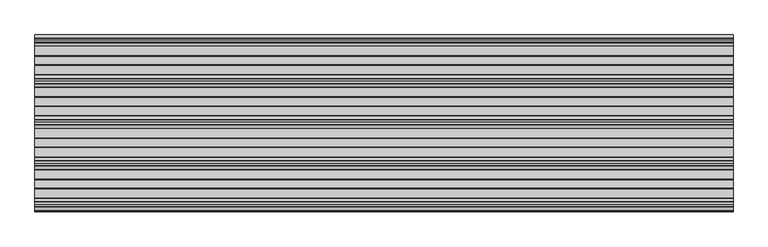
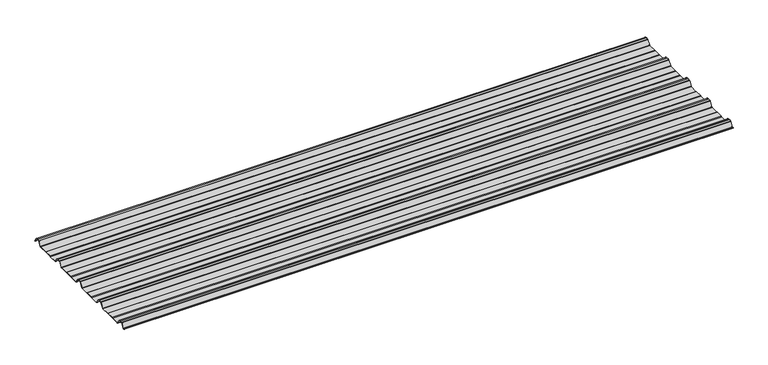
"""IFC4 building model written with IfcOpenShell, lengths in millimetres: beam geometry, 3D_Metalcraft T-Rib : 3D_Metalcraft T-Rib."""

from ifc_helpers import new_model, si_unit, point, frame, frame_2d, origin, place, context, project, spatial, polyline, circle_curve, trimmed, segment, composite_curve, outline, extrude, source, transform, mapped, element, save


def beam_7249f60c(model_context):
    return source(origin(), model_context, "Body", "SweptSolid", [
        extrude(outline(composite_curve([segment(polyline([(-72.2377386, -25.7896475), (-76.3538889, -24.06703), (-113.6461111, -24.06703), (-117.7622614, -25.7896475), (-160.0, -25.7896475)]), True, "CONTINUOUS"), segment(trimmed(circle_curve(frame_2d((-159.2196788, -21.4509358)), 4.4083239), [point((-160.0, -25.7896475))], [point((-162.8209858, -23.9933574))], False, "CARTESIAN"), True, "CONTINUOUS"), segment(polyline([(-162.8209858, -23.9933574), (-178.3273257, -0.5940367)]), True, "CONTINUOUS"), segment(trimmed(circle_curve(frame_2d((-180.8929255, -2.3855242)), 3.1291741), [point((-178.3273257, -0.5940367))], [point((-179.9028031, 0.582874))], True, "CARTESIAN"), True, "CONTINUOUS"), segment(trimmed(circle_curve(frame_2d((-189.9940851, -29.8891871)), 32.0995402), [point((-179.9028031, 0.582874))], [point((-190.0, 2.2103525))], True, "CARTESIAN"), True, "CONTINUOUS"), segment(trimmed(circle_curve(frame_2d((-190.0059149, -29.8891871)), 32.0995402), [point((-190.0, 2.2103525))], [point((-200.0971969, 0.582874))], True, "CARTESIAN"), True, "CONTINUOUS"), segment(trimmed(circle_curve(frame_2d((-199.1070745, -2.3855242)), 3.1291741), [point((-200.0971969, 0.582874))], [point((-201.6726743, -0.5940367))], True, "CARTESIAN"), True, "CONTINUOUS"), segment(polyline([(-201.6726743, -0.5940367), (-217.1790142, -23.9933574)]), True, "CONTINUOUS"), segment(trimmed(circle_curve(frame_2d((-220.7803212, -21.4509358)), 4.4083239), [point((-217.1790142, -23.9933574))], [point((-220.0, -25.7896475))], False, "CARTESIAN"), True, "CONTINUOUS"), segment(polyline([(-220.0, -25.7896475), (-262.2377386, -25.7896475), (-266.3538889, -24.06703), (-303.6461111, -24.06703), (-307.7622614, -25.7896475), (-350.0, -25.7896475)]), True, "CONTINUOUS"), segment(trimmed(circle_curve(frame_2d((-349.2196788, -21.4509358)), 4.4083239), [point((-350.0, -25.7896475))], [point((-352.8209858, -23.9933574))], False, "CARTESIAN"), True, "CONTINUOUS"), segment(polyline([(-352.8209858, -23.9933574), (-368.3273257, -0.5940367)]), True, "CONTINUOUS"), segment(trimmed(circle_curve(frame_2d((-370.8929255, -2.3855242)), 3.1291741), [point((-368.3273257, -0.5940367))], [point((-369.9028031, 0.582874))], True, "CARTESIAN"), True, "CONTINUOUS"), segment(trimmed(circle_curve(frame_2d((-379.9940851, -29.8891871)), 32.0995402), [point((-369.9028031, 0.582874))], [point((-380.0, 2.2103525))], True, "CARTESIAN"), True, "CONTINUOUS"), segment(trimmed(circle_curve(frame_2d((-380.0059149, -29.8891871)), 32.0995402), [point((-380.0, 2.2103525))], [point((-390.0971969, 0.582874))], True, "CARTESIAN"), True, "CONTINUOUS"), segment(trimmed(circle_curve(frame_2d((-389.1070745, -2.3855242)), 3.1291741), [point((-390.0971969, 0.582874))], [point((-391.6726743, -0.5940367))], True, "CARTESIAN"), True, "CONTINUOUS"), segment(polyline([(-391.6726743, -0.5940367), (-407.1790142, -23.9933574)]), True, "CONTINUOUS"), segment(trimmed(circle_curve(frame_2d((-410.7803212, -21.4509358)), 4.4083239), [point((-407.1790142, -23.9933574))], [point((-410.0, -25.7896475))], False, "CARTESIAN"), True, "CONTINUOUS"), segment(polyline([(-410.0, -25.7896475), (-452.2377387, -25.7896475), (-456.3538889, -24.06703), (-493.6461111, -24.06703), (-497.7622614, -25.7896475), (-540.0, -25.7896475)]), True, "CONTINUOUS"), segment(trimmed(circle_curve(frame_2d((-539.2196788, -21.4509358)), 4.4083239), [point((-540.0, -25.7896475))], [point((-542.8209858, -23.9933574))], False, "CARTESIAN"), True, "CONTINUOUS"), segment(polyline([(-542.8209858, -23.9933574), (-558.3273257, -0.5940367)]), True, "CONTINUOUS"), segment(trimmed(circle_curve(frame_2d((-560.8929255, -2.3855242)), 3.1291741), [point((-558.3273257, -0.5940367))], [point((-559.9028031, 0.582874))], True, "CARTESIAN"), True, "CONTINUOUS"), segment(trimmed(circle_curve(frame_2d((-569.9940851, -29.8891871)), 32.0995402), [point((-559.9028031, 0.582874))], [point((-570.0, 2.2103525))], True, "CARTESIAN"), True, "CONTINUOUS"), segment(trimmed(circle_curve(frame_2d((-570.0059149, -29.8891871)), 32.0995402), [point((-570.0, 2.2103525))], [point((-580.0971969, 0.582874))], True, "CARTESIAN"), True, "CONTINUOUS"), segment(trimmed(circle_curve(frame_2d((-579.1070745, -2.3855242)), 3.1291741), [point((-580.0971969, 0.582874))], [point((-581.6726743, -0.5940367))], True, "CARTESIAN"), True, "CONTINUOUS"), segment(polyline([(-581.6726743, -0.5940367), (-597.1790142, -23.9933574)]), True, "CONTINUOUS"), segment(trimmed(circle_curve(frame_2d((-600.7803212, -21.4509358)), 4.4083239), [point((-597.1790142, -23.9933574))], [point((-600.0, -25.7896475))], False, "CARTESIAN"), True, "CONTINUOUS"), segment(polyline([(-600.0, -25.7896475), (-642.2377387, -25.7896475), (-646.3538889, -24.06703), (-683.6461111, -24.06703), (-687.7622614, -25.7896475), (-730.0, -25.7896475)]), True, "CONTINUOUS"), segment(trimmed(circle_curve(frame_2d((-729.2196788, -21.4509358)), 4.4083239), [point((-730.0, -25.7896475))], [point((-732.8209858, -23.9933574))], False, "CARTESIAN"), True, "CONTINUOUS"), segment(polyline([(-732.8209858, -23.9933574), (-748.3273257, -0.5940367)]), True, "CONTINUOUS"), segment(trimmed(circle_curve(frame_2d((-750.8929255, -2.3855242)), 3.1291741), [point((-748.3273257, -0.5940367))], [point((-749.9028031, 0.582874))], True, "CARTESIAN"), True, "CONTINUOUS"), segment(trimmed(circle_curve(frame_2d((-759.9940851, -29.8891871)), 32.0995402), [point((-749.9028031, 0.582874))], [point((-760.0, 2.2103525))], True, "CARTESIAN"), True, "CONTINUOUS"), segment(trimmed(circle_curve(frame_2d((-760.0059149, -29.8891871)), 32.0995402), [point((-760.0, 2.2103525))], [point((-770.0971969, 0.582874))], True, "CARTESIAN"), True, "CONTINUOUS"), segment(trimmed(circle_curve(frame_2d((-769.1070745, -2.3855242)), 3.1291741), [point((-770.0971969, 0.582874))], [point((-771.6726743, -0.5940367))], True, "CARTESIAN"), True, "CONTINUOUS"), segment(polyline([(-771.6726743, -0.5940367), (-785.8536479, -21.993358)]), True, "CONTINUOUS"), segment(trimmed(circle_curve(frame_2d((-789.4549545, -19.4509358)), 4.4083239), [point((-785.8536479, -21.993358))], [point((-788.6746333, -23.7896475))], False, "CARTESIAN"), True, "CONTINUOUS"), segment(polyline([(-788.6746333, -23.7896475), (-792.3232685, -23.7896475)]), True, "CONTINUOUS"), segment(trimmed(circle_curve(frame_2d((-792.3232685, -23.2896475)), 0.5), [point((-792.3232685, -23.7896475))], [point((-792.3232685, -22.7896475))], False, "CARTESIAN"), True, "CONTINUOUS"), segment(polyline([(-792.3232685, -22.7896475), (-788.769625, -22.7896475)]), True, "CONTINUOUS"), segment(trimmed(circle_curve(frame_2d((-789.4549545, -19.4509358)), 3.4083239), [point((-788.769625, -22.7896475))], [point((-786.6785605, -21.42788))], True, "CARTESIAN"), True, "CONTINUOUS"), segment(polyline([(-786.6785605, -21.42788), (-772.5, -0.0322)]), True, "CONTINUOUS"), segment(trimmed(circle_curve(frame_2d((-769.1070745, -2.3855242)), 4.1291741), [point((-772.5, -0.0322))], [point((-770.41253, 1.5318556))], False, "CARTESIAN"), True, "CONTINUOUS"), segment(trimmed(circle_curve(frame_2d((-760.0059149, -29.8891871)), 33.0995402), [point((-770.41253, 1.5318556))], [point((-760.0, 3.2103525))], False, "CARTESIAN"), True, "CONTINUOUS"), segment(trimmed(circle_curve(frame_2d((-759.9940851, -29.8891871)), 33.0995402), [point((-760.0, 3.2103525))], [point((-749.58747, 1.5318556))], False, "CARTESIAN"), True, "CONTINUOUS"), segment(trimmed(circle_curve(frame_2d((-750.8929255, -2.3855242)), 4.1291741), [point((-749.58747, 1.5318556))], [point((-747.5, -0.0322))], False, "CARTESIAN"), True, "CONTINUOUS"), segment(polyline([(-747.5, -0.0322), (-732.1223092, -23.2373872)]), True, "CONTINUOUS"), segment(trimmed(circle_curve(frame_2d((-729.2196788, -21.4509358)), 3.4083239), [point((-732.1223092, -23.2373872))], [point((-729.9050084, -24.7896475))], True, "CARTESIAN"), True, "CONTINUOUS"), segment(polyline([(-729.9050084, -24.7896475), (-687.9630742, -24.7896475), (-683.846924, -23.06703), (-646.1530761, -23.06703), (-642.0369258, -24.7896475), (-600.0949917, -24.7896475)]), True, "CONTINUOUS"), segment(trimmed(circle_curve(frame_2d((-600.7803212, -21.4509358)), 3.4083239), [point((-600.0949917, -24.7896475))], [point((-597.8776908, -23.2373872))], True, "CARTESIAN"), True, "CONTINUOUS"), segment(polyline([(-597.8776908, -23.2373872), (-582.5, -0.0322)]), True, "CONTINUOUS"), segment(trimmed(circle_curve(frame_2d((-579.1070745, -2.3855242)), 4.1291741), [point((-582.5, -0.0322))], [point((-580.41253, 1.5318556))], False, "CARTESIAN"), True, "CONTINUOUS"), segment(trimmed(circle_curve(frame_2d((-570.0059149, -29.8891871)), 33.0995402), [point((-580.41253, 1.5318556))], [point((-570.0, 3.2103525))], False, "CARTESIAN"), True, "CONTINUOUS"), segment(trimmed(circle_curve(frame_2d((-569.9940851, -29.8891871)), 33.0995402), [point((-570.0, 3.2103525))], [point((-559.58747, 1.5318556))], False, "CARTESIAN"), True, "CONTINUOUS"), segment(trimmed(circle_curve(frame_2d((-560.8929255, -2.3855242)), 4.1291741), [point((-559.58747, 1.5318556))], [point((-557.5, -0.0322))], False, "CARTESIAN"), True, "CONTINUOUS"), segment(polyline([(-557.5, -0.0322), (-542.1223092, -23.2373872)]), True, "CONTINUOUS"), segment(trimmed(circle_curve(frame_2d((-539.2196788, -21.4509358)), 3.4083239), [point((-542.1223092, -23.2373872))], [point((-539.9050084, -24.7896475))], True, "CARTESIAN"), True, "CONTINUOUS"), segment(polyline([(-539.9050084, -24.7896475), (-497.9630742, -24.7896475), (-493.846924, -23.06703), (-456.1530761, -23.06703), (-452.0369258, -24.7896475), (-410.0949917, -24.7896475)]), True, "CONTINUOUS"), segment(trimmed(circle_curve(frame_2d((-410.7803212, -21.4509358)), 3.4083239), [point((-410.0949917, -24.7896475))], [point((-407.8776908, -23.2373872))], True, "CARTESIAN"), True, "CONTINUOUS"), segment(polyline([(-407.8776908, -23.2373872), (-392.5, -0.0322)]), True, "CONTINUOUS"), segment(trimmed(circle_curve(frame_2d((-389.1070745, -2.3855242)), 4.1291741), [point((-392.5, -0.0322))], [point((-390.41253, 1.5318556))], False, "CARTESIAN"), True, "CONTINUOUS"), segment(trimmed(circle_curve(frame_2d((-380.0059149, -29.8891871)), 33.0995402), [point((-390.41253, 1.5318556))], [point((-380.0, 3.2103525))], False, "CARTESIAN"), True, "CONTINUOUS"), segment(trimmed(circle_curve(frame_2d((-379.9940851, -29.8891871)), 33.0995402), [point((-380.0, 3.2103525))], [point((-369.58747, 1.5318556))], False, "CARTESIAN"), True, "CONTINUOUS"), segment(trimmed(circle_curve(frame_2d((-370.8929255, -2.3855242)), 4.1291741), [point((-369.58747, 1.5318556))], [point((-367.5, -0.0322))], False, "CARTESIAN"), True, "CONTINUOUS"), segment(polyline([(-367.5, -0.0322), (-352.1223092, -23.2373872)]), True, "CONTINUOUS"), segment(trimmed(circle_curve(frame_2d((-349.2196788, -21.4509358)), 3.4083239), [point((-352.1223092, -23.2373872))], [point((-349.9050084, -24.7896475))], True, "CARTESIAN"), True, "CONTINUOUS"), segment(polyline([(-349.9050084, -24.7896475), (-307.9630742, -24.7896475), (-303.846924, -23.06703), (-266.153076, -23.06703), (-262.0369258, -24.7896475), (-220.0949917, -24.7896475)]), True, "CONTINUOUS"), segment(trimmed(circle_curve(frame_2d((-220.7803212, -21.4509358)), 3.4083239), [point((-220.0949917, -24.7896475))], [point((-217.8776908, -23.2373872))], True, "CARTESIAN"), True, "CONTINUOUS"), segment(polyline([(-217.8776908, -23.2373872), (-202.5, -0.0322)]), True, "CONTINUOUS"), segment(trimmed(circle_curve(frame_2d((-199.1070745, -2.3855242)), 4.1291741), [point((-202.5, -0.0322))], [point((-200.41253, 1.5318556))], False, "CARTESIAN"), True, "CONTINUOUS"), segment(trimmed(circle_curve(frame_2d((-190.0059149, -29.8891871)), 33.0995402), [point((-200.41253, 1.5318556))], [point((-190.0, 3.2103525))], False, "CARTESIAN"), True, "CONTINUOUS"), segment(trimmed(circle_curve(frame_2d((-189.9940851, -29.8891871)), 33.0995402), [point((-190.0, 3.2103525))], [point((-179.58747, 1.5318556))], False, "CARTESIAN"), True, "CONTINUOUS"), segment(trimmed(circle_curve(frame_2d((-180.8929255, -2.3855242)), 4.1291741), [point((-179.58747, 1.5318556))], [point((-177.5, -0.0322))], False, "CARTESIAN"), True, "CONTINUOUS"), segment(polyline([(-177.5, -0.0322), (-162.1223092, -23.2373872)]), True, "CONTINUOUS"), segment(trimmed(circle_curve(frame_2d((-159.2196788, -21.4509358)), 3.4083239), [point((-162.1223092, -23.2373872))], [point((-159.9050084, -24.7896475))], True, "CARTESIAN"), True, "CONTINUOUS"), segment(polyline([(-159.9050084, -24.7896475), (-117.9630742, -24.7896475), (-113.846924, -23.06703), (-76.153076, -23.06703), (-72.0369258, -24.7896475), (-27.6957008, -24.7896475)]), True, "CONTINUOUS"), segment(trimmed(circle_curve(frame_2d((-28.3810303, -21.4509358)), 3.4083239), [point((-27.6957008, -24.7896475))], [point((-25.6046359, -23.4278795))], True, "CARTESIAN"), True, "CONTINUOUS"), segment(polyline([(-25.6046359, -23.4278795), (-10.8390947, -1.146436)]), True, "CONTINUOUS"), segment(trimmed(circle_curve(frame_2d((-9.2408211, -2.2055853)), 1.9173616), [point((-10.8390947, -1.146436))], [point((-9.7828223, -0.366425))], False, "CARTESIAN"), True, "CONTINUOUS"), segment(trimmed(circle_curve(frame_2d((-0.0059149, -29.8891871)), 31.0995402), [point((-9.7828223, -0.366425))], [point((0.0, 1.2103525))], False, "CARTESIAN"), True, "CONTINUOUS"), segment(trimmed(circle_curve(frame_2d((0.0059149, -29.8891871)), 31.0995402), [point((0.0, 1.2103525))], [point((9.7828223, -0.366425))], False, "CARTESIAN"), True, "CONTINUOUS"), segment(trimmed(circle_curve(frame_2d((9.2408211, -2.2055853)), 1.9173616), [point((9.7828223, -0.366425))], [point((10.8390947, -1.146436))], False, "CARTESIAN"), True, "CONTINUOUS"), segment(polyline([(10.8390947, -1.146436), (25.1846039, -22.7940443)]), True, "CONTINUOUS"), segment(trimmed(circle_curve(frame_2d((24.7678141, -23.0702439)), 0.5), [point((25.1846039, -22.7940443))], [point((24.3510243, -23.3464436))], False, "CARTESIAN"), True, "CONTINUOUS"), segment(polyline([(24.3510243, -23.3464436), (10.1734573, -1.9522629)]), True, "CONTINUOUS"), segment(trimmed(circle_curve(frame_2d((8.6614124, -2.9542699)), 1.8139178), [point((10.1734573, -1.9522629))], [point((9.071517, -1.18732))], True, "CARTESIAN"), True, "CONTINUOUS"), segment(trimmed(circle_curve(frame_2d((0.0059149, -29.8891871)), 30.0995402), [point((9.071517, -1.18732))], [point((0.0, 0.2103525))], True, "CARTESIAN"), True, "CONTINUOUS"), segment(trimmed(circle_curve(frame_2d((-0.0059149, -29.8891871)), 30.0995402), [point((0.0, 0.2103525))], [point((-9.071517, -1.18732))], True, "CARTESIAN"), True, "CONTINUOUS"), segment(trimmed(circle_curve(frame_2d((-8.6614124, -2.9542699)), 1.8139178), [point((-9.071517, -1.18732))], [point((-10.1734573, -1.9522629))], True, "CARTESIAN"), True, "CONTINUOUS"), segment(polyline([(-10.1734573, -1.9522629), (-24.7797233, -23.9933574)]), True, "CONTINUOUS"), segment(trimmed(circle_curve(frame_2d((-28.3810303, -21.4509358)), 4.4083239), [point((-24.7797233, -23.9933574))], [point((-27.6007091, -25.7896475))], False, "CARTESIAN"), True, "CONTINUOUS"), segment(polyline([(-27.6007091, -25.7896475), (-72.2377386, -25.7896475)]), True, "CONTINUOUS")], self_intersect=False)), frame((-1615.4201823, 0.0, 0.0), z_axis=(1.0, 0.0, 0.0), x_axis=(0.0, 1.0, 0.0)), (0.0, 0.0, 1.0), 3230.8403647),
    ])


if __name__ == "__main__":
    model = new_model("IFC4")
    model_context = context("Model", 3, world=origin())
    ifc_project = project(units=[si_unit("LENGTHUNIT", "METRE", prefix="MILLI")], contexts=[model_context])
    site = spatial("IfcSite", under=ifc_project)
    building = spatial("IfcBuilding", under=site)
    placement = place(None, origin())
    beam_shape = beam_7249f60c(model_context)
    element("IfcBeam", 1, ObjectType="3D_Metalcraft T-Rib : 3D_Metalcraft T-Rib", at=placement, inside=building, context=model_context, shape_type="MappedRepresentation", body=[
        mapped(beam_shape, transform((0.0, 0.0, 0.0), x_axis=(1.0, 0.0, 0.0), y_axis=(0.0, 1.0, 0.0), z_axis=(0.0, 0.0, 1.0))),
    ])
    save(model, "model.ifc")
